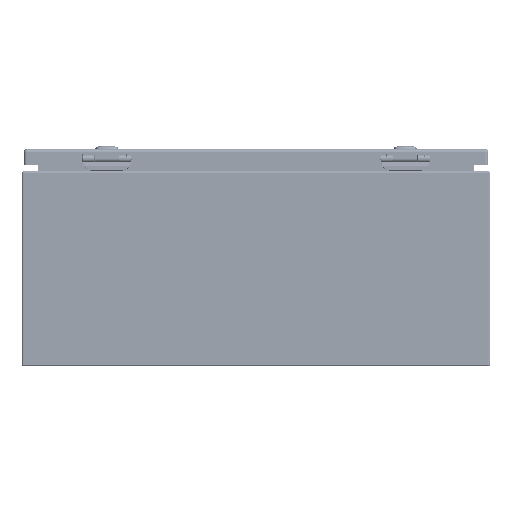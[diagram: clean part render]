
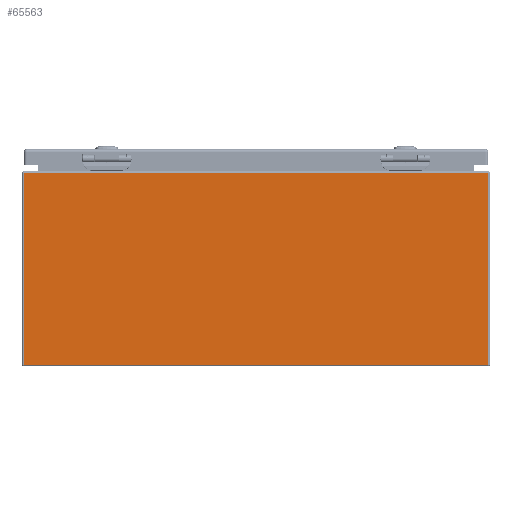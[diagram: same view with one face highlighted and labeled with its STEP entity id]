
A CAD part, left-side view. The second image highlights one B-rep face of the part: STEP entity #65563.
In plain terms, the highlighted planar face has unit normal (-1, 0, 0).
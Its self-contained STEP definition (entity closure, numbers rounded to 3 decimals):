
#6097=LINE('',#92680,#10243);
#6108=LINE('',#92721,#10254);
#6112=LINE('',#92736,#10258);
#6113=LINE('',#92737,#10259);
#10243=VECTOR('',#76607,0.394);
#10254=VECTOR('',#76656,0.394);
#10258=VECTOR('',#76674,0.394);
#10259=VECTOR('',#76675,0.394);
#15483=FACE_OUTER_BOUND('',#19571,.T.);
#19571=EDGE_LOOP('',(#43658,#43659,#43660,#43661));
#26455=VERTEX_POINT('',#92673);
#26456=VERTEX_POINT('',#92678);
#26467=VERTEX_POINT('',#92720);
#26471=VERTEX_POINT('',#92735);
#33057=EDGE_CURVE('',#26456,#26455,#6097,.T.);
#33077=EDGE_CURVE('',#26455,#26467,#6108,.T.);
#33085=EDGE_CURVE('',#26471,#26456,#6112,.T.);
#33086=EDGE_CURVE('',#26471,#26467,#6113,.T.);
#43658=ORIENTED_EDGE('',*,*,#33057,.F.);
#43659=ORIENTED_EDGE('',*,*,#33085,.F.);
#43660=ORIENTED_EDGE('',*,*,#33086,.T.);
#43661=ORIENTED_EDGE('',*,*,#33077,.F.);
#64132=PLANE('',#70549);
#65563=ADVANCED_FACE('',(#15483),#64132,.F.);
#70549=AXIS2_PLACEMENT_3D('',#92734,#76672,#76673);
#76607=DIRECTION('',(0.,-1.,0.));
#76656=DIRECTION('',(0.,0.,-1.));
#76672=DIRECTION('center_axis',(1.,0.,0.));
#76673=DIRECTION('ref_axis',(0.,0.,-1.));
#76674=DIRECTION('',(0.,0.,1.));
#76675=DIRECTION('',(0.,-1.,0.));
#92673=CARTESIAN_POINT('',(-12.,-11.916,9.916));
#92678=CARTESIAN_POINT('',(-12.,11.916,9.916));
#92680=CARTESIAN_POINT('',(-12.,-5.979,9.916));
#92720=CARTESIAN_POINT('',(-12.,-11.916,0.084));
#92721=CARTESIAN_POINT('',(-12.,-11.916,5.));
#92734=CARTESIAN_POINT('Origin',(-12.,0.,5.));
#92735=CARTESIAN_POINT('',(-12.,11.916,0.084));
#92736=CARTESIAN_POINT('',(-12.,11.916,5.));
#92737=CARTESIAN_POINT('',(-12.,6.,0.084));
